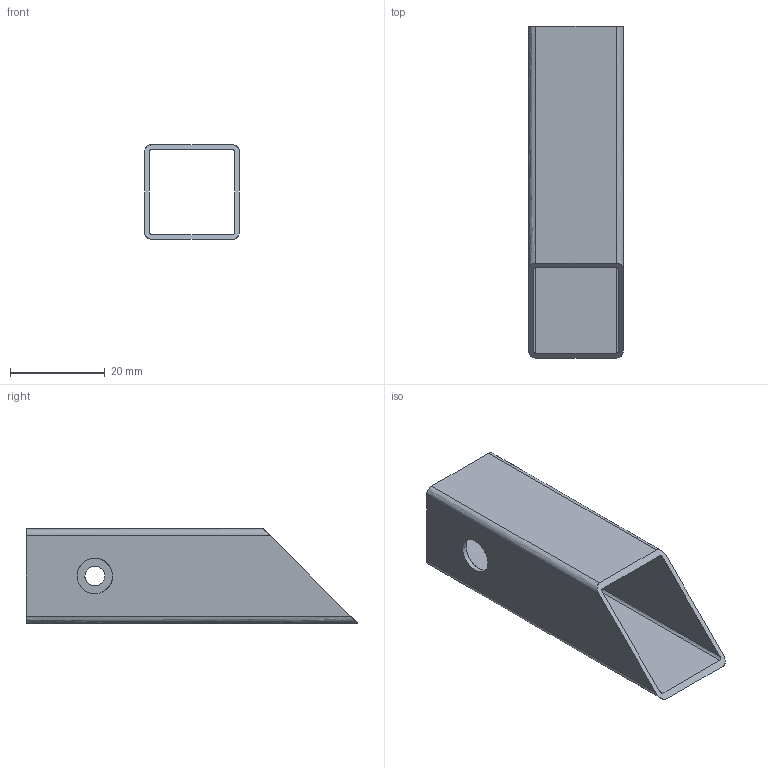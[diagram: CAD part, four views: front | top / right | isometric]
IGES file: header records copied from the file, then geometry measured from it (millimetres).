
Global section: file name: 0393-13-27; native system: VariCAD 2020-1.02; preprocessor: 5.3; author: LVVS3874K00E; organization: Elphe, Inc.; date: 20250930.170059; units: millimetre
Bounding box: 20 x 70 x 20 mm (x, y, z)
Surface area: 9014.2 mm2 (no closed solid volume)
Topology: 0 solids, 0 shells, 22 faces, 131 edges, 120 vertices
Faces by surface type: revolution 12, bspline 10
